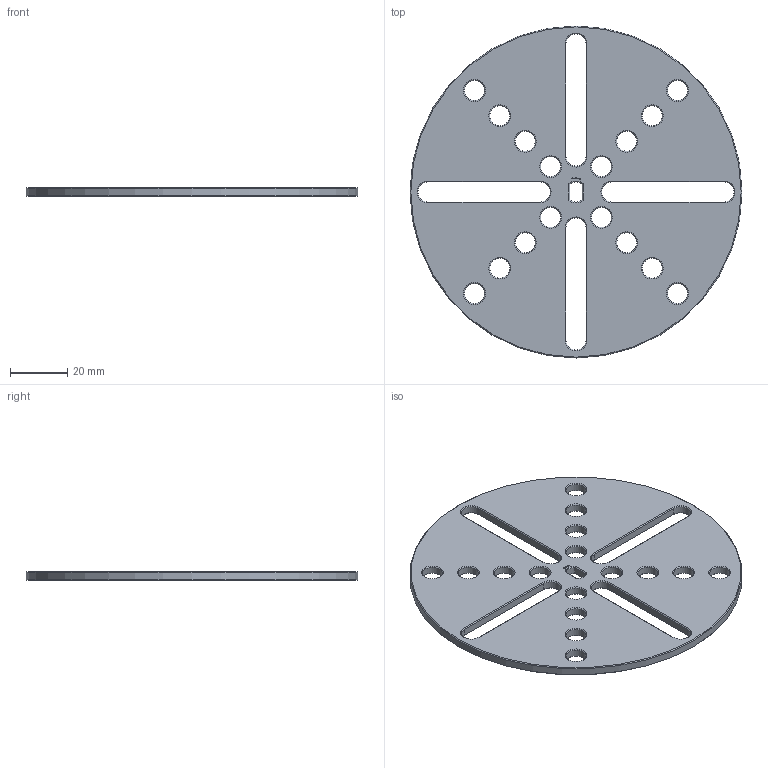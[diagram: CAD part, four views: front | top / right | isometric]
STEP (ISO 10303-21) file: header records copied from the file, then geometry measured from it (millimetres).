
FILE_DESCRIPTION(/* description */ (''),/* implementation_level */ '2;1');
FILE_NAME(/* name */ '/Users/paulokiefe/Desktop/STEMFIE/Fasteners/Washers/Fixed/Washer WSR FXD BU0.25x9.25 - SPN-WSR-0034 v1.step',/* time_stamp */ '2020-09-27T23:23:14+02:00',/* author */ (''),/* organization */ (''),/* preprocessor_version */ 'ST-DEVELOPER v18.1',/* originating_system */ 'Autodesk Translation Framework v9.3.0.1241',/* authorisation */ '');
FILE_SCHEMA (('AUTOMOTIVE_DESIGN { 1 0 10303 214 3 1 1 }'));
Length unit declared in the file: millimetre
Products named in the file (1): Washer WSR FXD BU0.25x9.25 - SPN-WSR-0034
Bounding box: 115.62 x 115.62 x 3.12 mm (x, y, z)
Volume: 26796.7 mm3; surface area: 20372.1 mm2
Topology: 1 solids, 1 shells, 357 faces, 955 edges, 612 vertices
Faces by surface type: plane 276, cone 54, cylinder 27
Full cylindrical faces by diameter (mm): 7 x16, 115.625 x1
Entity records: 11030 total; most frequent: CARTESIAN_POINT 1949, ORIENTED_EDGE 1910, DIRECTION 1771, EDGE_CURVE 955, LINE 839, VECTOR 839, VERTEX_POINT 612, AXIS2_PLACEMENT_3D 466
